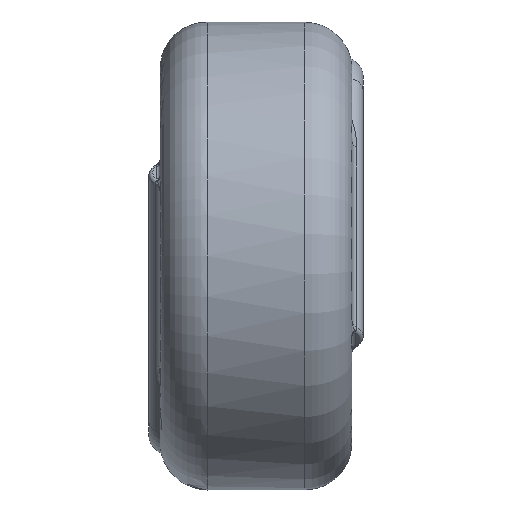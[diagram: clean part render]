
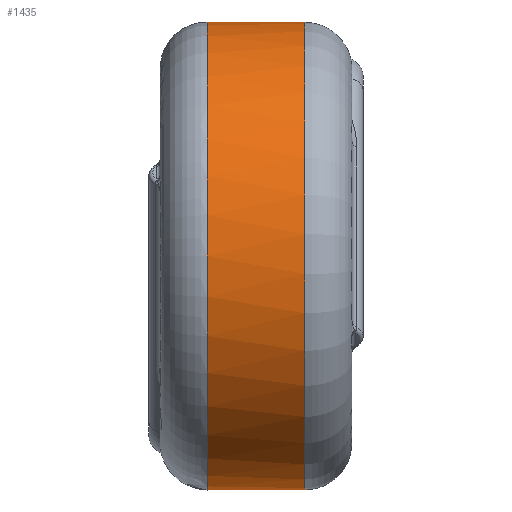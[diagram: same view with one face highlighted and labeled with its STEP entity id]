
A CAD part, left-side view. The second image highlights one B-rep face of the part: STEP entity #1435.
In plain terms, the highlighted cylindrical face has radius 12.45 mm (diameter 24.9 mm), a full revolution.
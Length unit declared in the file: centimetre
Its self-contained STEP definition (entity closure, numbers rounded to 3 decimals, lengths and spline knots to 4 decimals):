
#980=CARTESIAN_POINT('',(1.245,0.69,0.));
#981=VERTEX_POINT('',#980);
#982=CARTESIAN_POINT('',(0.0,0.69,0.0));
#983=DIRECTION('',(0.0,1.0,0.0));
#984=DIRECTION('',(-1.0,0.0,0.0));
#985=AXIS2_PLACEMENT_3D('',#982,#983,#984);
#986=CIRCLE('',#985,1.245);
#987=EDGE_CURVE('',#981,#981,#986,.T.);
#1326=CARTESIAN_POINT('',(1.245,0.169,0.));
#1327=VERTEX_POINT('',#1326);
#1328=CARTESIAN_POINT('',(0.0,0.169,0.0));
#1329=DIRECTION('',(0.0,-1.0,0.0));
#1330=DIRECTION('',(-1.0,0.0,0.0));
#1331=AXIS2_PLACEMENT_3D('',#1328,#1329,#1330);
#1332=CIRCLE('',#1331,1.245);
#1333=EDGE_CURVE('',#1327,#1327,#1332,.T.);
#1424=CARTESIAN_POINT('',(0.0,0.4295,0.0));
#1425=DIRECTION('',(0.0,1.0,0.0));
#1426=DIRECTION('',(-1.0,0.0,0.0));
#1427=AXIS2_PLACEMENT_3D('',#1424,#1425,#1426);
#1428=CYLINDRICAL_SURFACE('',#1427,1.245);
#1429=ORIENTED_EDGE('',*,*,#987,.F.);
#1430=EDGE_LOOP('',(#1429));
#1431=FACE_OUTER_BOUND('',#1430,.T.);
#1432=ORIENTED_EDGE('',*,*,#1333,.F.);
#1433=EDGE_LOOP('',(#1432));
#1434=FACE_BOUND('',#1433,.T.);
#1435=ADVANCED_FACE('',(#1431,#1434),#1428,.T.);
